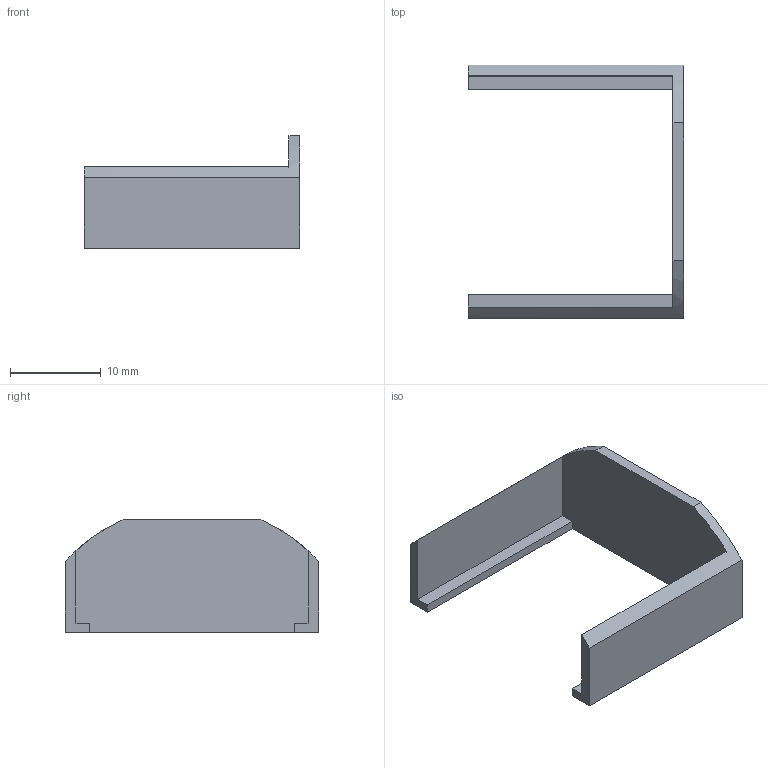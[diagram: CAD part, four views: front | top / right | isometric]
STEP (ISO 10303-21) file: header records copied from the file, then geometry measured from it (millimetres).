
FILE_DESCRIPTION(('SkyG Speed 90B - revision C6B-22 - 2026-10-16','HG-gps-carrier'),'2;1');
FILE_NAME('HG-gps-carrier_C6B-22','2026-10-16T19:15:22',('Author'),( 'Open CASCADE'),'Open CASCADE STEP processor 7.9','Open CASCADE 7.9' ,'Unknown');
FILE_SCHEMA(('AUTOMOTIVE_DESIGN { 1 0 10303 214 1 1 1 1 }'));
Length unit declared in the file: millimetre
Products named in the file (1): HG-gps-carrier C6B-22
Bounding box: 23.8 x 28 x 12.4 mm (x, y, z)
Volume: 911.1 mm3; surface area: 1760.3 mm2
Topology: 1 solids, 1 shells, 16 faces, 42 edges, 28 vertices
Faces by surface type: plane 14, cylinder 2
Entity records: 1044 total; most frequent: CARTESIAN_POINT 193, DIRECTION 154, LINE 104, VECTOR 104, ORIENTED_EDGE 84, PCURVE 84, DEFINITIONAL_REPRESENTATION 84, EDGE_CURVE 42
